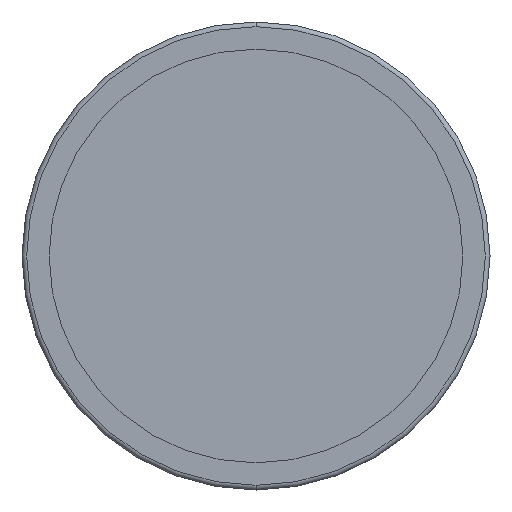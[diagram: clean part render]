
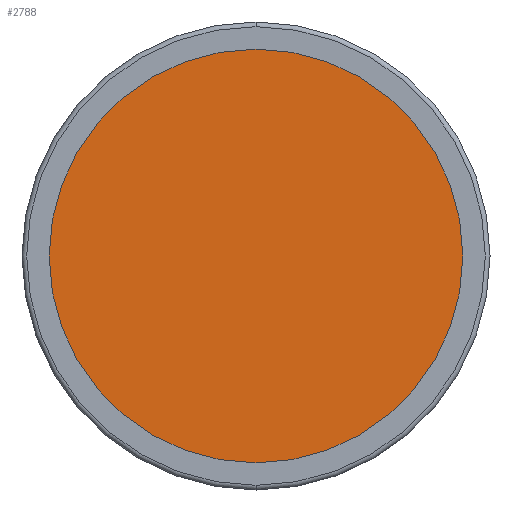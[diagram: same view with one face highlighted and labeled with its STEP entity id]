
A CAD part, front view. The second image highlights one B-rep face of the part: STEP entity #2788.
In plain terms, the highlighted planar face has unit normal (0, -1, 0).
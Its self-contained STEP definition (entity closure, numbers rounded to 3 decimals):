
#14 = CIRCLE ( 'NONE', #2331, 43.75 ) ;
#243 = ORIENTED_EDGE ( 'NONE', *, *, #2690, .F. ) ;
#428 = CARTESIAN_POINT ( 'NONE',  ( 0., -3., 0. ) ) ;
#635 = DIRECTION ( 'NONE',  ( 0., 1., 0. ) ) ;
#688 = AXIS2_PLACEMENT_3D ( 'NONE', #2495, #2969, #2987 ) ;
#730 = CARTESIAN_POINT ( 'NONE',  ( 0., -3., -43.75 ) ) ;
#962 = DIRECTION ( 'NONE',  ( 0., 0., 1. ) ) ;
#1183 = DIRECTION ( 'NONE',  ( 0., 0., 1. ) ) ;
#1258 = CIRCLE ( 'NONE', #1517, 43.75 ) ;
#1381 = EDGE_LOOP ( 'NONE', ( #243, #2637 ) ) ;
#1517 = AXIS2_PLACEMENT_3D ( 'NONE', #1977, #2632, #962 ) ;
#1874 = VERTEX_POINT ( 'NONE', #2533 ) ;
#1929 = PLANE ( 'NONE',  #688 ) ;
#1977 = CARTESIAN_POINT ( 'NONE',  ( 0., -3., 0. ) ) ;
#2113 = VERTEX_POINT ( 'NONE', #730 ) ;
#2213 = FACE_OUTER_BOUND ( 'NONE', #1381, .T. ) ;
#2331 = AXIS2_PLACEMENT_3D ( 'NONE', #428, #635, #1183 ) ;
#2495 = CARTESIAN_POINT ( 'NONE',  ( -43.75, -3., 0. ) ) ;
#2533 = CARTESIAN_POINT ( 'NONE',  ( 0., -3., 43.75 ) ) ;
#2632 = DIRECTION ( 'NONE',  ( 0., 1., 0. ) ) ;
#2637 = ORIENTED_EDGE ( 'NONE', *, *, #2910, .F. ) ;
#2690 = EDGE_CURVE ( 'NONE', #1874, #2113, #1258, .T. ) ;
#2788 = ADVANCED_FACE ( 'NONE', ( #2213 ), #1929, .T. ) ;
#2910 = EDGE_CURVE ( 'NONE', #2113, #1874, #14, .T. ) ;
#2969 = DIRECTION ( 'NONE',  ( 0., -1., 0. ) ) ;
#2987 = DIRECTION ( 'NONE',  ( 0., 0., -1. ) ) ;
